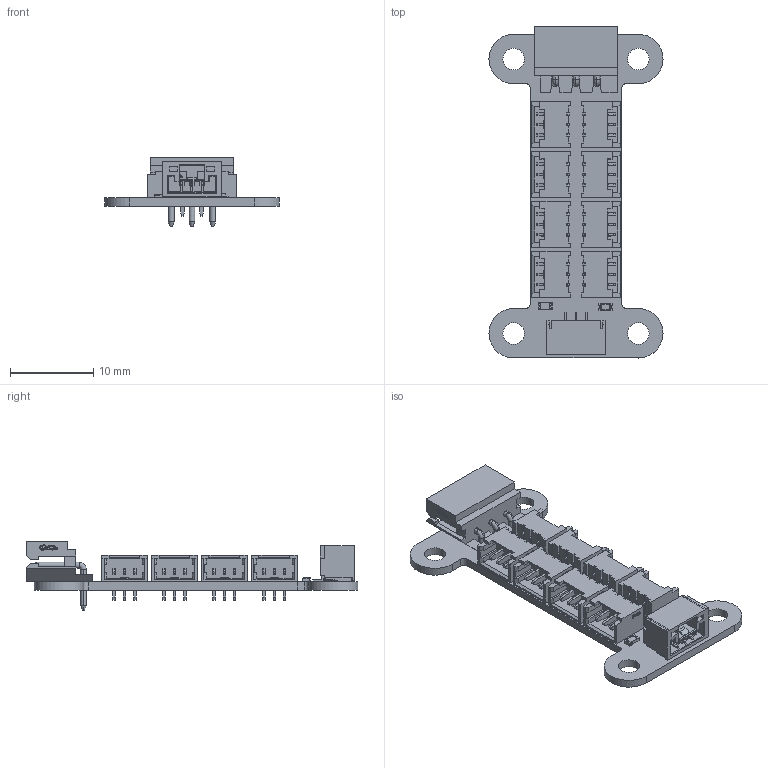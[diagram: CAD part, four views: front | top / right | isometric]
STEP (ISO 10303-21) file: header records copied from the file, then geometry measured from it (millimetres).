
FILE_DESCRIPTION(('Designed by EasyEDA Pro'),'2;1');
FILE_NAME('Open CASCADE Shape Model','2025-11-20T19:12:19',('Author'),( 'Open CASCADE'),'Open CASCADE STEP processor 7.8','Open CASCADE 7.8' ,'Unknown');
FILE_SCHEMA(('AUTOMOTIVE_DESIGN { 1 0 10303 214 1 1 1 1 }'));
Length unit declared in the file: millimetre
Products named in the file (16): EasyEDA PCB Model~H5cx; Board~H5cx; TopCopper~H5cx; BottomCopper~H5cx; TopFpcStiffener~H5cx; BottomFpcStiffener~H5cx; LED~LED0603-RD~LED0603-RD~H5cx; LED0603-RD~LED0603-RD~H5cx; R1~R0603~R0603~H5cx; R0603~R0603~H5cx; CN2~CONN-TH_3P-P1.25_HCTL_HC-1.25-3AW~CONN-TH_3P-P1.25_HCTL_
HC-1.25-3AW~H5cx; CONN-TH_3P-P1.25_HCTL_HC-1.25-3AW~CONN-TH_3P-P1.25_HCTL_
HC-1.25-3AW~H5cx; CN10~CONN-SMD_3P-P1.25_BX-GH1.25-3PWT~CONN-SMD_3P-P1.25_
BX-GH1.25-3PWT~H5cx; CONN-SMD_3P-P1.25_BX-GH1.25-3PWT~CONN-SMD_3P-P1.25_BX-GH1.25-3PWT~H5cx; CN1~CONN-TH_3P-P2.50_HCTL_HC-5264-3AW~CONN-TH_3P-P2.50_HCTL_
HC-5264-3AW~H5cx; CONN-TH_3P-P2.50_HCTL_HC-5264-3AW~CONN-TH_3P-P2.50_HCTL_
HC-5264-3AW~H5cx
Assembly tree (22 placements, depth 3):
  EasyEDA PCB Model~H5cx
    Board~H5cx
    TopCopper~H5cx
    BottomCopper~H5cx
    TopFpcStiffener~H5cx
    BottomFpcStiffener~H5cx
    LED~LED0603-RD~LED0603-RD~H5cx
      LED0603-RD~LED0603-RD~H5cx
    R1~R0603~R0603~H5cx
      R0603~R0603~H5cx
    CN2~CONN-TH_3P-P1.25_HCTL_HC-1.25-3AW~CONN-TH_3P-P1.25_HCTL_
HC-1.25-3AW~H5cx  x8
      CONN-TH_3P-P1.25_HCTL_HC-1.25-3AW~CONN-TH_3P-P1.25_HCTL_
HC-1.25-3AW~H5cx
    CN10~CONN-SMD_3P-P1.25_BX-GH1.25-3PWT~CONN-SMD_3P-P1.25_
BX-GH1.25-3PWT~H5cx
      CONN-SMD_3P-P1.25_BX-GH1.25-3PWT~CONN-SMD_3P-P1.25_BX-GH1.25-3PWT~H5cx
    CN1~CONN-TH_3P-P2.50_HCTL_HC-5264-3AW~CONN-TH_3P-P2.50_HCTL_
HC-5264-3AW~H5cx
      CONN-TH_3P-P2.50_HCTL_HC-5264-3AW~CONN-TH_3P-P2.50_HCTL_
HC-5264-3AW~H5cx
Bounding box: 20.95 x 39.94 x 8.4 mm (x, y, z)
Volume: 1072.9 mm3; surface area: 3502.1 mm2
Topology: 136 solids, 136 shells, 4561 faces, 12374 edges, 8214 vertices
Faces by surface type: plane 3105, bspline 1218, cylinder 216, cone 12, torus 6, sphere 4
Entity records: 73619 total; most frequent: CARTESIAN_POINT 17164, ORIENTED_EDGE 9362, DIRECTION 6749, EDGE_CURVE 4681, LINE 3467, VECTOR 3467, VERTEX_POINT 3104, FACE_BOUND 1899
